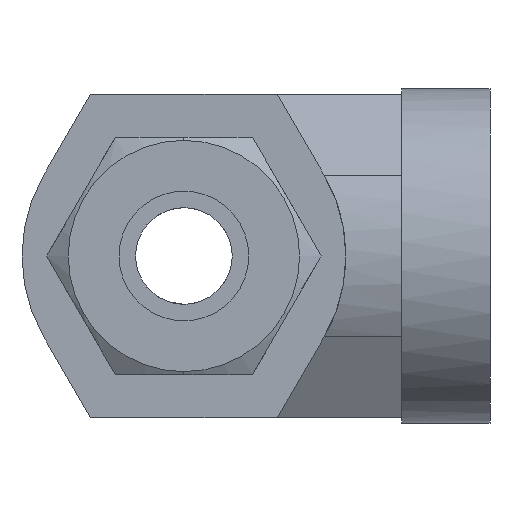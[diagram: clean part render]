
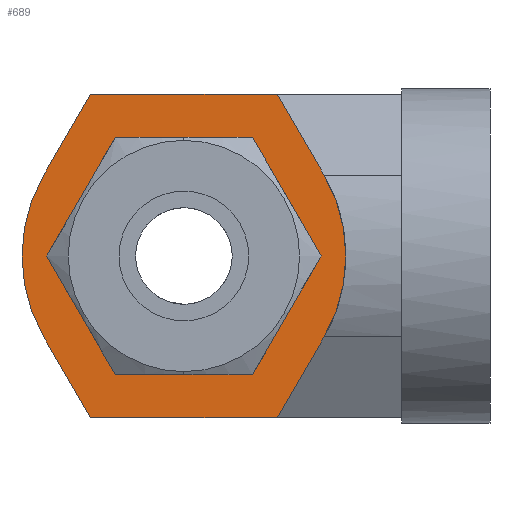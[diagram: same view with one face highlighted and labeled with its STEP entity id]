
A CAD part, left-side view. The second image highlights one B-rep face of the part: STEP entity #689.
In plain terms, the highlighted planar face has unit normal (-1, 0, 0).
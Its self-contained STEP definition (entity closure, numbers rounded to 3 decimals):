
#390 = VERTEX_POINT ( 'NONE', #1890 ) ;
#392 = EDGE_CURVE ( 'NONE', #393, #390, #1889, .T. ) ;
#393 = VERTEX_POINT ( 'NONE', #1884 ) ;
#456 = EDGE_CURVE ( 'NONE', #457, #393, #1976, .T. ) ;
#457 = VERTEX_POINT ( 'NONE', #1967 ) ;
#463 = VERTEX_POINT ( 'NONE', #1959 ) ;
#490 = VERTEX_POINT ( 'NONE', #2027 ) ;
#508 = EDGE_CURVE ( 'NONE', #463, #457, #2066, .T. ) ;
#534 = EDGE_CURVE ( 'NONE', #390, #544, #2086, .T. ) ;
#543 = EDGE_CURVE ( 'NONE', #544, #490, #2135, .T. ) ;
#544 = VERTEX_POINT ( 'NONE', #2131 ) ;
#672 = ORIENTED_EDGE ( 'NONE', *, *, #508, .T. ) ;
#673 = ORIENTED_EDGE ( 'NONE', *, *, #456, .T. ) ;
#674 = ORIENTED_EDGE ( 'NONE', *, *, #392, .T. ) ;
#675 = ORIENTED_EDGE ( 'NONE', *, *, #534, .T. ) ;
#676 = ORIENTED_EDGE ( 'NONE', *, *, #543, .T. ) ;
#677 = ORIENTED_EDGE ( 'NONE', *, *, #678, .T. ) ;
#678 = EDGE_CURVE ( 'NONE', #490, #693, #2383, .T. ) ;
#679 = EDGE_LOOP ( 'NONE', ( #680, #682 ) ) ;
#680 = ORIENTED_EDGE ( 'NONE', *, *, #681, .F. ) ;
#681 = EDGE_CURVE ( 'NONE', #2884, #2891, #2379, .T. ) ;
#682 = ORIENTED_EDGE ( 'NONE', *, *, #2882, .F. ) ;
#689 = ADVANCED_FACE ( 'NONE', ( #2363, #2362 ), #2361, .T. ) ;
#690 = EDGE_LOOP ( 'NONE', ( #691, #695, #672, #673, #674, #675, #676, #677 ) ) ;
#691 = ORIENTED_EDGE ( 'NONE', *, *, #692, .T. ) ;
#692 = EDGE_CURVE ( 'NONE', #693, #694, #2355, .T. ) ;
#693 = VERTEX_POINT ( 'NONE', #2414 ) ;
#694 = VERTEX_POINT ( 'NONE', #2413 ) ;
#695 = ORIENTED_EDGE ( 'NONE', *, *, #696, .T. ) ;
#696 = EDGE_CURVE ( 'NONE', #694, #463, #2412, .T. ) ;
#1884 = CARTESIAN_POINT ( 'NONE',  ( -14.34, 10.306, 5.95 ) ) ;
#1885 = DIRECTION ( 'NONE',  ( 0., 0., -1. ) ) ;
#1886 = DIRECTION ( 'NONE',  ( -1., 0., 0. ) ) ;
#1887 = CARTESIAN_POINT ( 'NONE',  ( -14.34, 0., 0. ) ) ;
#1888 = AXIS2_PLACEMENT_3D ( 'NONE', #1887, #1886, #1885 ) ;
#1889 = CIRCLE ( 'NONE', #1888, 11.9 ) ;
#1890 = CARTESIAN_POINT ( 'NONE',  ( -14.34, 10.306, -5.95 ) ) ;
#1959 = CARTESIAN_POINT ( 'NONE',  ( -14.34, -6.87, 11.9 ) ) ;
#1967 = CARTESIAN_POINT ( 'NONE',  ( -14.34, 6.87, 11.9 ) ) ;
#1968 = DIRECTION ( 'NONE',  ( 0., 0.5, -0.866 ) ) ;
#1969 = VECTOR ( 'NONE', #1968, 1000. ) ;
#1970 = CARTESIAN_POINT ( 'NONE',  ( -14.34, 6.87, 11.9 ) ) ;
#1976 = LINE ( 'NONE', #1970, #1969 ) ;
#2027 = CARTESIAN_POINT ( 'NONE',  ( -14.34, -6.87, -11.9 ) ) ;
#2058 = DIRECTION ( 'NONE',  ( 0., 1., 0. ) ) ;
#2059 = VECTOR ( 'NONE', #2058, 1000. ) ;
#2060 = CARTESIAN_POINT ( 'NONE',  ( -14.34, -6.87, 11.9 ) ) ;
#2066 = LINE ( 'NONE', #2060, #2059 ) ;
#2083 = DIRECTION ( 'NONE',  ( 0., -0.5, -0.866 ) ) ;
#2084 = VECTOR ( 'NONE', #2083, 1000. ) ;
#2085 = CARTESIAN_POINT ( 'NONE',  ( -14.34, 10.306, -5.95 ) ) ;
#2086 = LINE ( 'NONE', #2085, #2084 ) ;
#2131 = CARTESIAN_POINT ( 'NONE',  ( -14.34, 6.87, -11.9 ) ) ;
#2132 = DIRECTION ( 'NONE',  ( 0., -1., 0. ) ) ;
#2133 = VECTOR ( 'NONE', #2132, 1000. ) ;
#2134 = CARTESIAN_POINT ( 'NONE',  ( -14.34, 6.87, -11.9 ) ) ;
#2135 = LINE ( 'NONE', #2134, #2133 ) ;
#2353 = DIRECTION ( 'NONE',  ( -1., 0., 0. ) ) ;
#2354 = AXIS2_PLACEMENT_3D ( 'NONE', #2359, #2353, #2415 ) ;
#2355 = CIRCLE ( 'NONE', #2354, 11.9 ) ;
#2356 = DIRECTION ( 'NONE',  ( 0., 0., -1. ) ) ;
#2357 = DIRECTION ( 'NONE',  ( -1., 0., 0. ) ) ;
#2358 = AXIS2_PLACEMENT_3D ( 'NONE', #2360, #2357, #2356 ) ;
#2359 = CARTESIAN_POINT ( 'NONE',  ( -14.34, 0., 0. ) ) ;
#2360 = CARTESIAN_POINT ( 'NONE',  ( -14.34, 0., 0. ) ) ;
#2361 = PLANE ( 'NONE',  #2358 ) ;
#2362 = FACE_BOUND ( 'NONE', #679, .T. ) ;
#2363 = FACE_OUTER_BOUND ( 'NONE', #690, .T. ) ;
#2375 = DIRECTION ( 'NONE',  ( 0., 0., -1. ) ) ;
#2376 = DIRECTION ( 'NONE',  ( -1., 0., 0. ) ) ;
#2377 = CARTESIAN_POINT ( 'NONE',  ( -14.34, 0., 0. ) ) ;
#2378 = AXIS2_PLACEMENT_3D ( 'NONE', #2377, #2376, #2375 ) ;
#2379 = CIRCLE ( 'NONE', #2378, 6.295 ) ;
#2380 = DIRECTION ( 'NONE',  ( 0., -0.5, 0.866 ) ) ;
#2381 = VECTOR ( 'NONE', #2380, 1000. ) ;
#2382 = CARTESIAN_POINT ( 'NONE',  ( -14.34, -6.87, -11.9 ) ) ;
#2383 = LINE ( 'NONE', #2382, #2381 ) ;
#2409 = DIRECTION ( 'NONE',  ( 0., 0.5, 0.866 ) ) ;
#2410 = VECTOR ( 'NONE', #2409, 1000. ) ;
#2411 = CARTESIAN_POINT ( 'NONE',  ( -14.34, -10.306, 5.95 ) ) ;
#2412 = LINE ( 'NONE', #2411, #2410 ) ;
#2413 = CARTESIAN_POINT ( 'NONE',  ( -14.34, -10.306, 5.95 ) ) ;
#2414 = CARTESIAN_POINT ( 'NONE',  ( -14.34, -10.306, -5.95 ) ) ;
#2415 = DIRECTION ( 'NONE',  ( 0., 0., -1. ) ) ;
#2704 = CARTESIAN_POINT ( 'NONE',  ( -14.34, 0., 6.295 ) ) ;
#2710 = DIRECTION ( 'NONE',  ( 0., 0., -1. ) ) ;
#2711 = DIRECTION ( 'NONE',  ( -1., 0., 0. ) ) ;
#2712 = CARTESIAN_POINT ( 'NONE',  ( -14.34, 0., 0. ) ) ;
#2713 = AXIS2_PLACEMENT_3D ( 'NONE', #2712, #2711, #2710 ) ;
#2714 = CIRCLE ( 'NONE', #2713, 6.295 ) ;
#2746 = CARTESIAN_POINT ( 'NONE',  ( -14.34, 0., -6.295 ) ) ;
#2882 = EDGE_CURVE ( 'NONE', #2891, #2884, #2714, .T. ) ;
#2884 = VERTEX_POINT ( 'NONE', #2704 ) ;
#2891 = VERTEX_POINT ( 'NONE', #2746 ) ;
